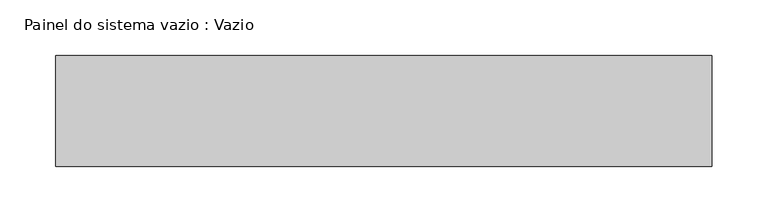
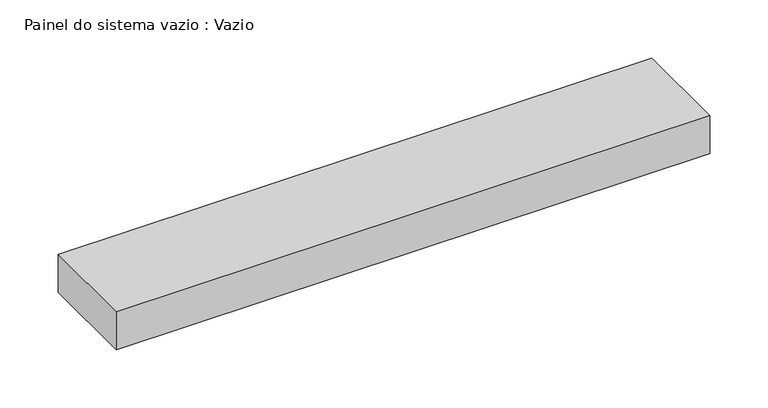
"""IFC4 building model written with IfcOpenShell, lengths in millimetres: plate geometry, Painel do sistema vazio : Vazio."""

from ifc_helpers import new_model, si_unit, origin, origin_with_axes, place, context, project, spatial, polyline, outline, extrude, source, transform, mapped, element, save


def painel_do_sistema_vazio_vazio_02596d65(model_context):
    return source(origin(), model_context, "Body", "SweptSolid", [
        extrude(outline(polyline([(295.6138553, -50.0), (-295.6138553, -50.0), (-295.6138553, 50.0), (295.6138553, 50.0), (295.6138553, -50.0)])), origin_with_axes(), (0.0, 0.0, 1.0), 39.8707643),
    ])


if __name__ == "__main__":
    model = new_model("IFC4")
    model_context = context("Model", 3, world=origin())
    ifc_project = project(units=[si_unit("LENGTHUNIT", "METRE", prefix="MILLI")], contexts=[model_context])
    site = spatial("IfcSite", under=ifc_project)
    building = spatial("IfcBuilding", under=site)
    placement = place(None, origin())
    painel_do_sistema_vazio_vazio_shape = painel_do_sistema_vazio_vazio_02596d65(model_context)
    element("IfcPlate", 1, ObjectType="Painel do sistema vazio : Vazio", at=placement, inside=building, context=model_context, shape_type="MappedRepresentation", body=[
        mapped(painel_do_sistema_vazio_vazio_shape, transform((0.0, 0.0, 0.0), x_axis=(1.0, 0.0, 0.0), y_axis=(0.0, 1.0, 0.0), z_axis=(0.0, 0.0, 1.0))),
    ])
    save(model, "model.ifc")
